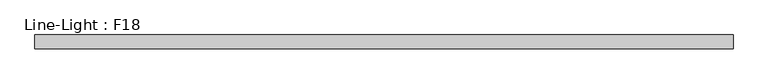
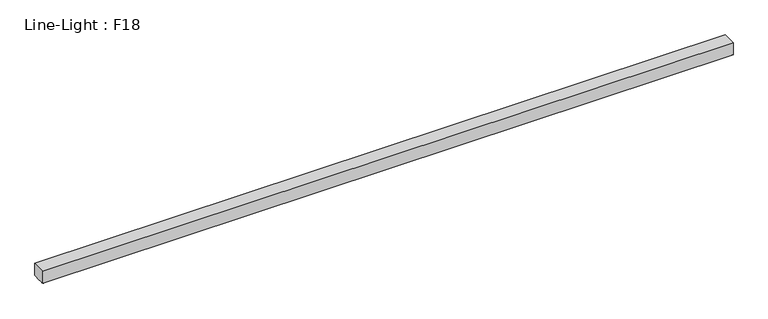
"""IFC4 building model written with IfcOpenShell, lengths in millimetres: light fixture geometry, Line-Light : F18."""

from ifc_helpers import new_model, si_unit, point, frame, origin, place, context, project, spatial, ellipse_curve, trimmed, source, transform, mapped, element, save
from ifc_brep_helpers import plane_surface, extruded_surface, advanced_brep


def line_light_f18_eebac381(model_context):
    return source(origin(), model_context, "Body", "AdvancedBrep", [
        advanced_brep(
        [(744.0, 4.0, 0.0), (744.0, -26.0, 0.0), (744.0, -26.0, -26.5), (744.0, 4.0, -26.5), (-744.0, 4.0, 0.0), (-744.0, 4.0, -26.5), (-744.0, -26.0, -26.5), (-744.0, -26.0, 0.0)],
        [
            (0, 1),
            (1, 2),
            (2, 3, ellipse_curve(frame((744.0, -11.0, -26.5), z_axis=(1.0, 0.0, 0.0), x_axis=(0.0, -1.0, 0.0)), 15.0, 1.5)),
            (3, 0),
            (4, 5),
            (5, 6, ellipse_curve(frame((-744.0, -11.0, -26.5), z_axis=(-1.0, 0.0, 0.0), x_axis=(0.0, -1.0, 0.0)), 15.0, 1.5)),
            (6, 7),
            (7, 4),
            (0, 4),
            (7, 1),
            (6, 2),
            (5, 3),
        ],
        [
            plane_surface(frame((744.0, -26.0, 0.0), z_axis=(1.0, 0.0, 0.0), x_axis=(0.0, -1.0, 0.0))),
            plane_surface(frame((-744.0, -26.0, 0.0), z_axis=(-1.0, 0.0, 0.0), x_axis=(0.0, 1.0, 0.0))),
            plane_surface(frame((744.0, 4.0, 0.0), z_axis=(0.0, 0.0, 1.0), x_axis=(-1.0, 0.0, 0.0))),
            plane_surface(frame((744.0, -26.0, 0.0), z_axis=(0.0, -1.0, 0.0), x_axis=(-1.0, 0.0, 0.0))),
            extruded_surface(trimmed(ellipse_curve(frame((-2232.0, -11.0, -26.5), z_axis=(1.0, 0.0, 0.0), x_axis=(0.0, -1.0, 0.0)), 15.0, 1.5), [point((-2232.0, -26.0, -26.5))], [point((-2232.0, 4.0, -26.5))], True, "CARTESIAN"), (1488.0, 0.0, 0.0), 1488.0),
            plane_surface(frame((744.0, 4.0, -26.5), z_axis=(0.0, 1.0, 0.0), x_axis=(-1.0, 0.0, 0.0))),
        ],
        [
            (0, [[1, 2, 3, 4]]),
            (1, [[5, 6, 7, 8]]),
            (2, [[-1, 9, -8, 10]]),
            (3, [[-2, -10, -7, 11]]),
            (4, [[-3, -11, -6, 12]]),
            (5, [[-4, -12, -5, -9]]),
        ],
    ),
    ])


if __name__ == "__main__":
    model = new_model("IFC4")
    model_context = context("Model", 3, world=origin())
    ifc_project = project(units=[si_unit("LENGTHUNIT", "METRE", prefix="MILLI")], contexts=[model_context])
    site = spatial("IfcSite", under=ifc_project)
    building = spatial("IfcBuilding", under=site)
    placement = place(None, origin())
    line_light_f18_shape = line_light_f18_eebac381(model_context)
    element("IfcLightFixture", 1, ObjectType="Line-Light : F18", at=placement, inside=building, context=model_context, shape_type="MappedRepresentation", body=[
        mapped(line_light_f18_shape, transform((0.0, 0.0, 0.0), x_axis=(1.0, 0.0, 0.0), y_axis=(0.0, 1.0, 0.0), z_axis=(0.0, 0.0, 1.0))),
    ])
    save(model, "model.ifc")
